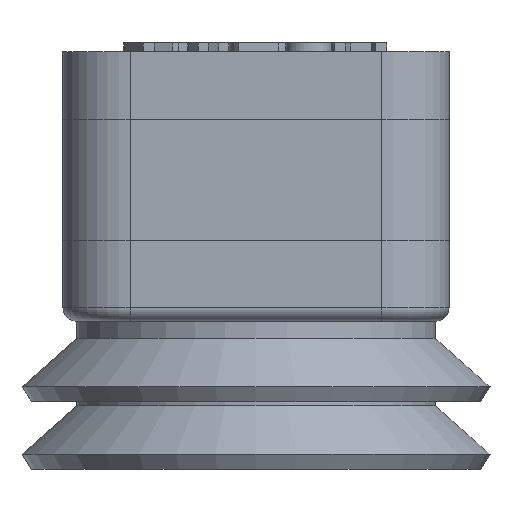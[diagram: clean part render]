
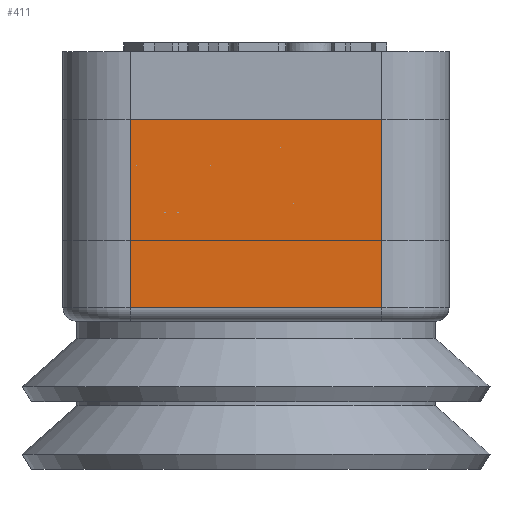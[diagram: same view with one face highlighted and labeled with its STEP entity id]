
A CAD part, left-side view. The second image highlights one B-rep face of the part: STEP entity #411.
In plain terms, the highlighted planar face has unit normal (-1, 0, 0).
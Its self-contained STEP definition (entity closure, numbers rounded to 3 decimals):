
#411 = ADVANCED_FACE( '', ( #853 ), #854, .T. );
#853 = FACE_OUTER_BOUND( '', #1386, .T. );
#854 = PLANE( '', #1387 );
#1386 = EDGE_LOOP( '', ( #2764, #2765, #2766, #2767 ) );
#1387 = AXIS2_PLACEMENT_3D( '', #2768, #2769, #2770 );
#2764 = ORIENTED_EDGE( '', *, *, #3266, .T. );
#2765 = ORIENTED_EDGE( '', *, *, #3461, .T. );
#2766 = ORIENTED_EDGE( '', *, *, #3408, .F. );
#2767 = ORIENTED_EDGE( '', *, *, #3472, .F. );
#2768 = CARTESIAN_POINT( '', ( -15., 2.8, -4.5 ) );
#2769 = DIRECTION( '', ( -1., 0., 0. ) );
#2770 = DIRECTION( '', ( 0., 0., 1. ) );
#3266 = EDGE_CURVE( '', #3893, #3844, #3895, .T. );
#3408 = EDGE_CURVE( '', #4089, #4091, #4092, .T. );
#3461 = EDGE_CURVE( '', #3844, #4091, #4158, .T. );
#3472 = EDGE_CURVE( '', #3893, #4089, #4169, .T. );
#3844 = VERTEX_POINT( '', #4990 );
#3893 = VERTEX_POINT( '', #5071 );
#3895 = LINE( '', #5073, #5074 );
#4089 = VERTEX_POINT( '', #5557 );
#4091 = VERTEX_POINT( '', #5559 );
#4092 = LINE( '', #5560, #5561 );
#4158 = LINE( '', #5746, #5747 );
#4169 = LINE( '', #5760, #5761 );
#4990 = CARTESIAN_POINT( '', ( -15., -2.8, -4.2 ) );
#5071 = CARTESIAN_POINT( '', ( -15., 2.8, -4.2 ) );
#5073 = CARTESIAN_POINT( '', ( -15., -2.8, -4.2 ) );
#5074 = VECTOR( '', #5995, 1000. );
#5557 = CARTESIAN_POINT( '', ( -15., 2.8, 0. ) );
#5559 = CARTESIAN_POINT( '', ( -15., -2.8, 0. ) );
#5560 = CARTESIAN_POINT( '', ( -15., 2.8, 0. ) );
#5561 = VECTOR( '', #6080, 1000. );
#5746 = CARTESIAN_POINT( '', ( -15., -2.8, -4.5 ) );
#5747 = VECTOR( '', #6100, 1000. );
#5760 = CARTESIAN_POINT( '', ( -15., 2.8, -4.5 ) );
#5761 = VECTOR( '', #6103, 1000. );
#5995 = DIRECTION( '', ( 0., -1., 0. ) );
#6080 = DIRECTION( '', ( 0., -1., 0. ) );
#6100 = DIRECTION( '', ( 0., 0., 1. ) );
#6103 = DIRECTION( '', ( 0., 0., 1. ) );
